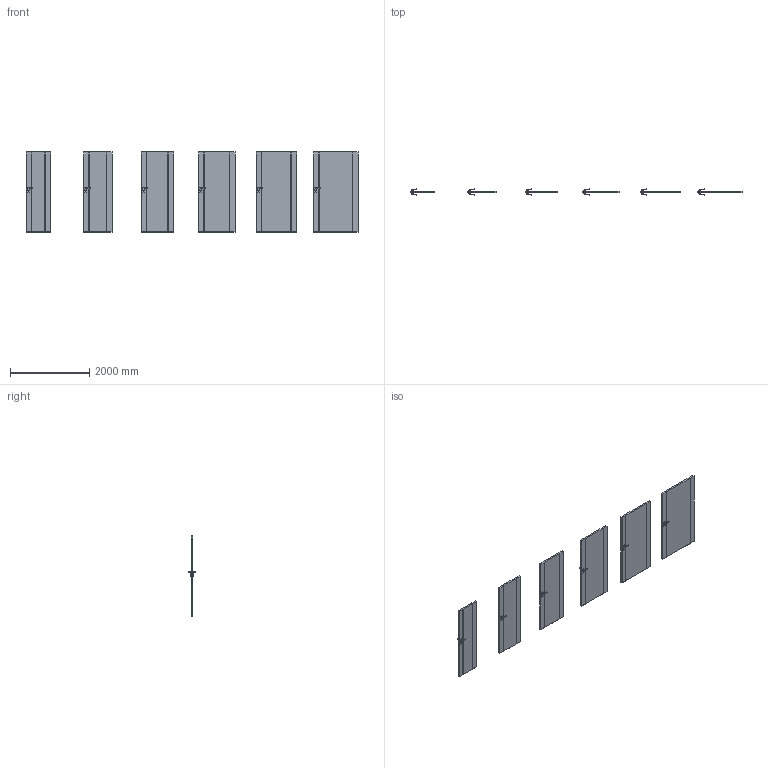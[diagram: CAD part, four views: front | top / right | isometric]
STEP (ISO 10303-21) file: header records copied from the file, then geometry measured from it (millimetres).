
FILE_DESCRIPTION(/* description */ (''),/* implementation_level */ '2;1');
FILE_NAME(/* name */ '049677_B_2-Skrzydło VECTOR A_ polska norma _PN__ bezprzylgowe..stp',/* time_stamp */ '2024-02-22T13:43:53+01:00',/* author */ (''),/* organization */ (''),/* preprocessor_version */ 'ST-DEVELOPER v16',/* originating_system */ 'SIEMENS PLM Software NX 11.0',/* authorisation */ '');
FILE_SCHEMA (('AUTOMOTIVE_DESIGN { 1 0 10303 214 3 1 1 1 }'));
Length unit declared in the file: millimetre
Products named in the file (1): bkni40080F8A8wy7
Bounding box: 8368 x 153.27 x 2017 mm (x, y, z)
Volume: 413246112.3 mm3; surface area: 22713743.6 mm2
Topology: 30 solids, 30 shells, 1248 faces, 3036 edges, 1728 vertices
Faces by surface type: plane 528, cylinder 360, bspline 192, sphere 168
Entity records: 41836 total; most frequent: CARTESIAN_POINT 14269, ORIENTED_EDGE 5736, DIRECTION 5534, EDGE_CURVE 2868, AXIS2_PLACEMENT_3D 1969, VERTEX_POINT 1728, LINE 1596, VECTOR 1596
